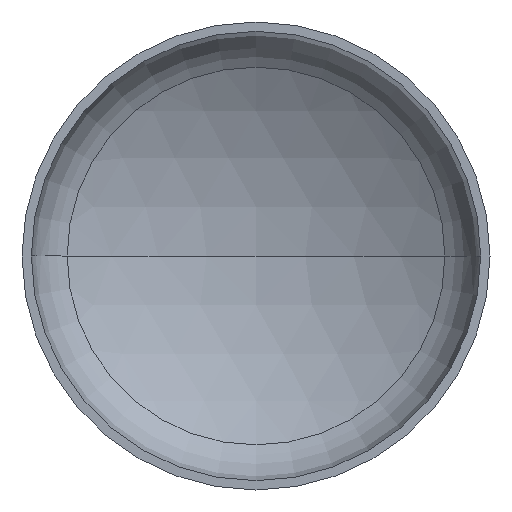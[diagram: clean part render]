
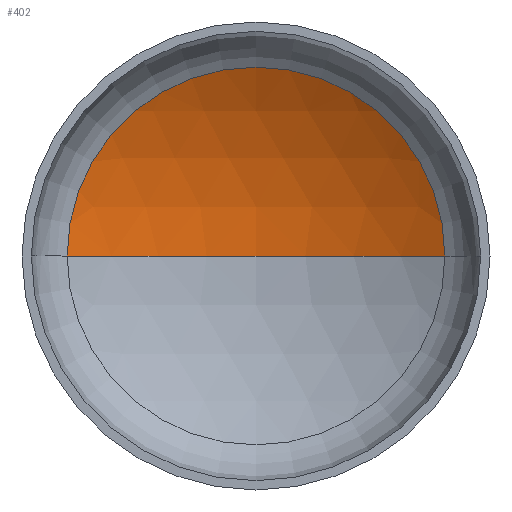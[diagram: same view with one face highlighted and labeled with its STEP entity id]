
A CAD part, front view. The second image highlights one B-rep face of the part: STEP entity #402.
In plain terms, the highlighted spherical face has radius 1920 mm.
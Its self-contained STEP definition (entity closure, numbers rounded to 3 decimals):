
#11 = AXIS2_PLACEMENT_3D ( 'NONE', #299, #148, #322 ) ;
#13 = ORIENTED_EDGE ( 'NONE', *, *, #135, .T. ) ;
#14 = AXIS2_PLACEMENT_3D ( 'NONE', #207, #364, #229 ) ;
#26 = ORIENTED_EDGE ( 'NONE', *, *, #353, .T. ) ;
#38 = CARTESIAN_POINT ( 'NONE',  ( 0., 469.459, 0. ) ) ;
#45 = AXIS2_PLACEMENT_3D ( 'NONE', #38, #85, #91 ) ;
#52 = VERTEX_POINT ( 'NONE', #244 ) ;
#66 = ORIENTED_EDGE ( 'NONE', *, *, #356, .F. ) ;
#85 = DIRECTION ( 'NONE',  ( 0., -1., 0. ) ) ;
#91 = DIRECTION ( 'NONE',  ( 1., 0., 0. ) ) ;
#98 = VERTEX_POINT ( 'NONE', #220 ) ;
#118 = CIRCLE ( 'NONE', #11, 1920. ) ;
#135 = EDGE_CURVE ( 'NONE', #52, #98, #363, .T. ) ;
#148 = DIRECTION ( 'NONE',  ( 0., 0., -1. ) ) ;
#196 = AXIS2_PLACEMENT_3D ( 'NONE', #302, #254, #212 ) ;
#207 = CARTESIAN_POINT ( 'NONE',  ( 0., -1188.274, 0. ) ) ;
#212 = DIRECTION ( 'NONE',  ( -1., 0., 0. ) ) ;
#220 = CARTESIAN_POINT ( 'NONE',  ( -968.671, 469.459, 0. ) ) ;
#229 = DIRECTION ( 'NONE',  ( 1., 0., 0. ) ) ;
#244 = CARTESIAN_POINT ( 'NONE',  ( 968.671, 469.459, 0. ) ) ;
#254 = DIRECTION ( 'NONE',  ( 0., 0., -1. ) ) ;
#299 = CARTESIAN_POINT ( 'NONE',  ( 0., -1188.274, 0. ) ) ;
#302 = CARTESIAN_POINT ( 'NONE',  ( 0., -1188.274, 0. ) ) ;
#312 = FACE_OUTER_BOUND ( 'NONE', #325, .T. ) ;
#319 = SPHERICAL_SURFACE ( 'NONE', #196, 1920. ) ;
#322 = DIRECTION ( 'NONE',  ( -1., 0., 0. ) ) ;
#325 = EDGE_LOOP ( 'NONE', ( #66, #26, #13 ) ) ;
#331 = CIRCLE ( 'NONE', #14, 1920. ) ;
#353 = EDGE_CURVE ( 'NONE', #376, #52, #118, .T. ) ;
#356 = EDGE_CURVE ( 'NONE', #376, #98, #331, .T. ) ;
#363 = CIRCLE ( 'NONE', #45, 968.671 ) ;
#364 = DIRECTION ( 'NONE',  ( 0., 0., 1. ) ) ;
#365 = CARTESIAN_POINT ( 'NONE',  ( 0., 731.726, 0. ) ) ;
#376 = VERTEX_POINT ( 'NONE', #365 ) ;
#402 = ADVANCED_FACE ( 'NONE', ( #312 ), #319, .F. ) ;
